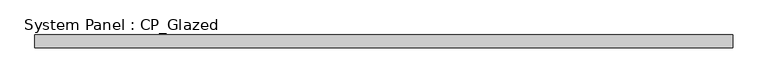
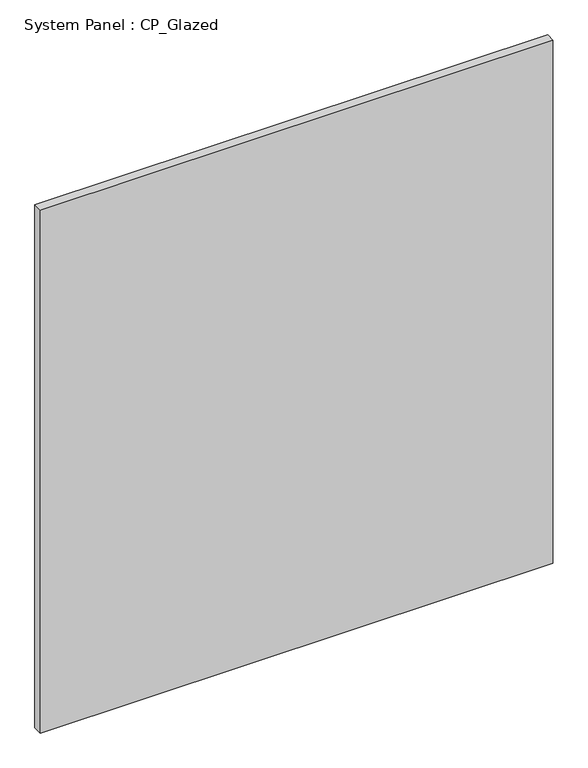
"""IFC4 building model written with IfcOpenShell, lengths in millimetres: plate geometry, System Panel : CP_Glazed."""

from ifc_helpers import new_model, si_unit, origin, origin_with_axes, place, context, project, spatial, polyline, outline, extrude, source, transform, mapped, element, save


def system_panel_cp_glazed_cd592387(model_context):
    return source(origin(), model_context, "Body", "SweptSolid", [
        extrude(outline(polyline([(685.8254543, 19.05), (-685.8254543, 19.05), (-685.8254543, 44.45), (685.8254543, 44.45), (685.8254543, 19.05)])), origin_with_axes(), (0.0, 0.0, 1.0), 1479.55),
    ])


if __name__ == "__main__":
    model = new_model("IFC4")
    model_context = context("Model", 3, world=origin())
    ifc_project = project(units=[si_unit("LENGTHUNIT", "METRE", prefix="MILLI")], contexts=[model_context])
    site = spatial("IfcSite", under=ifc_project)
    building = spatial("IfcBuilding", under=site)
    placement = place(None, origin())
    system_panel_cp_glazed_shape = system_panel_cp_glazed_cd592387(model_context)
    element("IfcPlate", 1, ObjectType="System Panel : CP_Glazed", at=placement, inside=building, context=model_context, shape_type="MappedRepresentation", body=[
        mapped(system_panel_cp_glazed_shape, transform((0.0, 0.0, 0.0), x_axis=(1.0, 0.0, 0.0), y_axis=(0.0, 1.0, 0.0), z_axis=(0.0, 0.0, 1.0))),
    ])
    save(model, "model.ifc")
